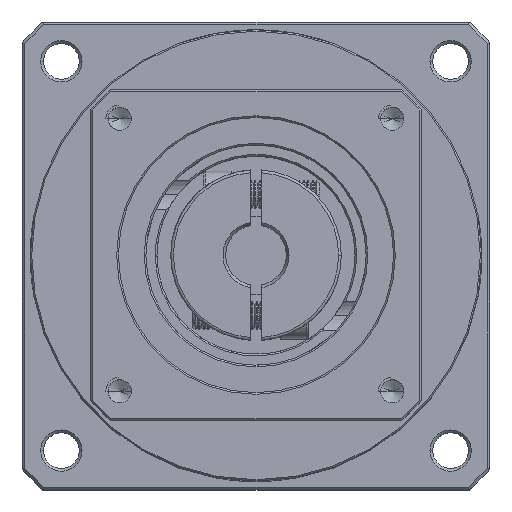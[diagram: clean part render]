
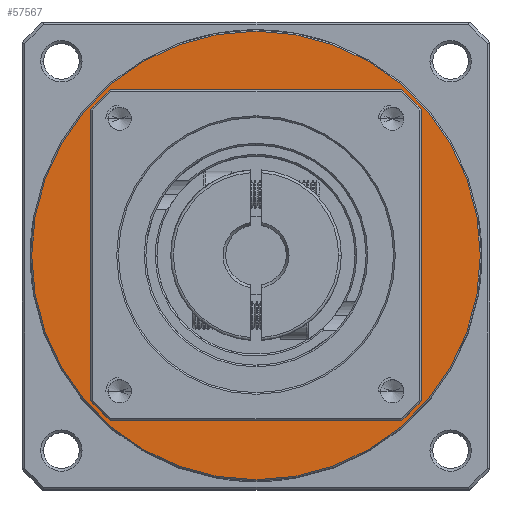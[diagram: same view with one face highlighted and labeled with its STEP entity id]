
A CAD part, top view. The second image highlights one B-rep face of the part: STEP entity #57567.
In plain terms, the highlighted planar face has unit normal (0, 0, 1).
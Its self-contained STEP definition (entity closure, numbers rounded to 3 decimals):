
#3556 = DIRECTION ( 'NONE',  ( 1., 0., 0. ) ) ;
#3971 = EDGE_LOOP ( 'NONE', ( #116962, #104576 ) ) ;
#5038 = DIRECTION ( 'NONE',  ( 0., 0., 1. ) ) ;
#6319 = CARTESIAN_POINT ( 'NONE',  ( -71.52, 46.613, -42.081 ) ) ;
#12911 = EDGE_LOOP ( 'NONE', ( #62405, #74840 ) ) ;
#13761 = EDGE_CURVE ( 'NONE', #113148, #122600, #24913, .T. ) ;
#14106 = CARTESIAN_POINT ( 'NONE',  ( -71.52, 46.613, -42.081 ) ) ;
#14314 = CIRCLE ( 'NONE', #116974, 40.75 ) ;
#21521 = CARTESIAN_POINT ( 'NONE',  ( -71.52, 46.613, -42.081 ) ) ;
#21794 = EDGE_CURVE ( 'NONE', #48456, #95447, #14314, .T. ) ;
#24913 = CIRCLE ( 'NONE', #105660, 30. ) ;
#28802 = FACE_BOUND ( 'NONE', #12911, .T. ) ;
#30006 = AXIS2_PLACEMENT_3D ( 'NONE', #14106, #92618, #3556 ) ;
#30308 = DIRECTION ( 'NONE',  ( 0., 0., 1. ) ) ;
#30405 = EDGE_CURVE ( 'NONE', #122600, #113148, #49839, .T. ) ;
#36483 = DIRECTION ( 'NONE',  ( 0., 0., 1. ) ) ;
#41648 = DIRECTION ( 'NONE',  ( 1., 0., 0. ) ) ;
#43075 = FACE_OUTER_BOUND ( 'NONE', #3971, .T. ) ;
#48456 = VERTEX_POINT ( 'NONE', #109865 ) ;
#49839 = CIRCLE ( 'NONE', #122542, 30. ) ;
#50925 = DIRECTION ( 'NONE',  ( 0., 0., 1. ) ) ;
#57567 = ADVANCED_FACE ( 'NONE', ( #28802, #43075 ), #117133, .T. ) ;
#58622 = EDGE_CURVE ( 'NONE', #95447, #48456, #102026, .T. ) ;
#62405 = ORIENTED_EDGE ( 'NONE', *, *, #13761, .F. ) ;
#71907 = AXIS2_PLACEMENT_3D ( 'NONE', #76779, #36483, #126861 ) ;
#72724 = CARTESIAN_POINT ( 'NONE',  ( -41.52, 46.613, -42.081 ) ) ;
#74840 = ORIENTED_EDGE ( 'NONE', *, *, #30405, .F. ) ;
#75552 = CARTESIAN_POINT ( 'NONE',  ( -101.52, 46.613, -42.081 ) ) ;
#76779 = CARTESIAN_POINT ( 'NONE',  ( -71.52, 46.613, -42.081 ) ) ;
#88960 = DIRECTION ( 'NONE',  ( 1., 0., 0. ) ) ;
#92618 = DIRECTION ( 'NONE',  ( 0., 0., 1. ) ) ;
#95447 = VERTEX_POINT ( 'NONE', #114524 ) ;
#102026 = CIRCLE ( 'NONE', #30006, 40.75 ) ;
#104576 = ORIENTED_EDGE ( 'NONE', *, *, #21794, .T. ) ;
#105660 = AXIS2_PLACEMENT_3D ( 'NONE', #6319, #5038, #88960 ) ;
#109865 = CARTESIAN_POINT ( 'NONE',  ( -30.77, 46.613, -42.081 ) ) ;
#112627 = CARTESIAN_POINT ( 'NONE',  ( -71.52, 46.613, -42.081 ) ) ;
#113148 = VERTEX_POINT ( 'NONE', #75552 ) ;
#114524 = CARTESIAN_POINT ( 'NONE',  ( -112.27, 46.613, -42.081 ) ) ;
#116962 = ORIENTED_EDGE ( 'NONE', *, *, #58622, .T. ) ;
#116974 = AXIS2_PLACEMENT_3D ( 'NONE', #21521, #30308, #121093 ) ;
#117133 = PLANE ( 'NONE',  #71907 ) ;
#121093 = DIRECTION ( 'NONE',  ( 1., 0., 0. ) ) ;
#122542 = AXIS2_PLACEMENT_3D ( 'NONE', #112627, #50925, #41648 ) ;
#122600 = VERTEX_POINT ( 'NONE', #72724 ) ;
#126861 = DIRECTION ( 'NONE',  ( 1., 0., 0. ) ) ;
